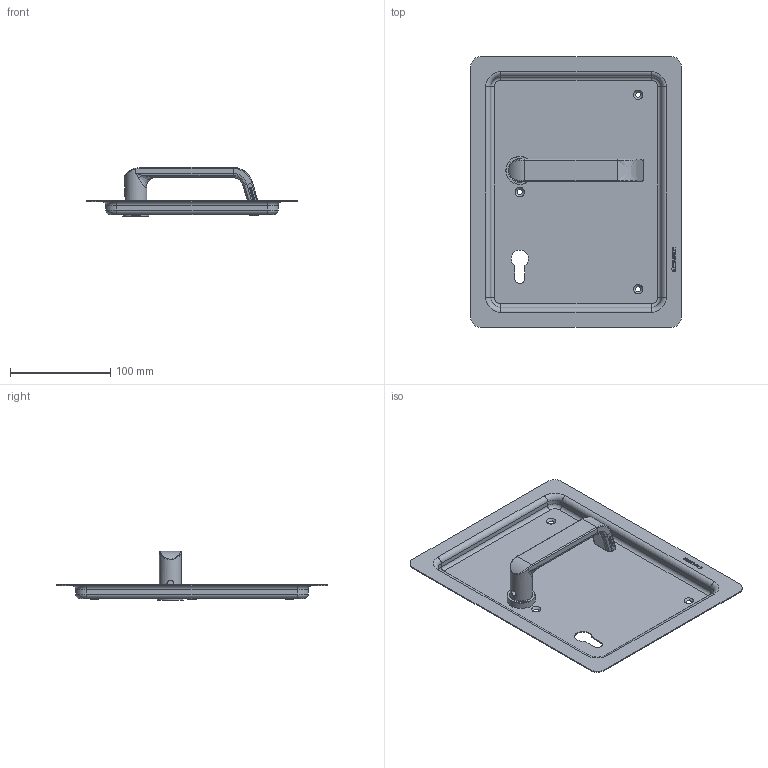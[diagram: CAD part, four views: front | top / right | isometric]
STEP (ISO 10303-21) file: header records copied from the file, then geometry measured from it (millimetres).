
FILE_DESCRIPTION(/* description */ (''),/* implementation_level */ '2;1');
FILE_NAME(/* name */ 'C:\ADSK_DMS_WS\Designs\Vorschläge\Loc Schalen\Muschel Serie 6\S6.13.D2\Heusser-Muschel S6.13.D2.388R.stp',/* time_stamp */ '2020-10-15T12:51:00+02:00',/* author */ ('gm'),/* organization */ (''),/* preprocessor_version */ 'ST-DEVELOPER v16.5',/* originating_system */ 'Autodesk Inventor 2017',/* authorisation */ '');
FILE_SCHEMA (('AUTOMOTIVE_DESIGN { 1 0 10303 214 3 1 1 }'));
Length unit declared in the file: millimetre
Products named in the file (1): S6.13.D1
Bounding box: 210 x 270 x 49 mm (x, y, z)
Volume: 107374.7 mm3; surface area: 142545.9 mm2
Topology: 1 solids, 2 shells, 611 faces, 1606 edges, 1040 vertices
Faces by surface type: plane 296, bspline 208, cylinder 70, torus 21, cone 16
Full cylindrical faces by diameter (mm): 1.7 x2, 6 x1, 14.2 x1, 16 x3, 18 x1, 19 x1, 19.1 x1, 22 x1, 23 x1, 23.2 x1, 24 x1, 25 x1, 26 x1, 28 x1
Entity records: 20907 total; most frequent: CARTESIAN_POINT 6373, ORIENTED_EDGE 3122, DIRECTION 2333, EDGE_CURVE 1561, VERTEX_POINT 1032, LINE 961, VECTOR 961, EDGE_LOOP 709
